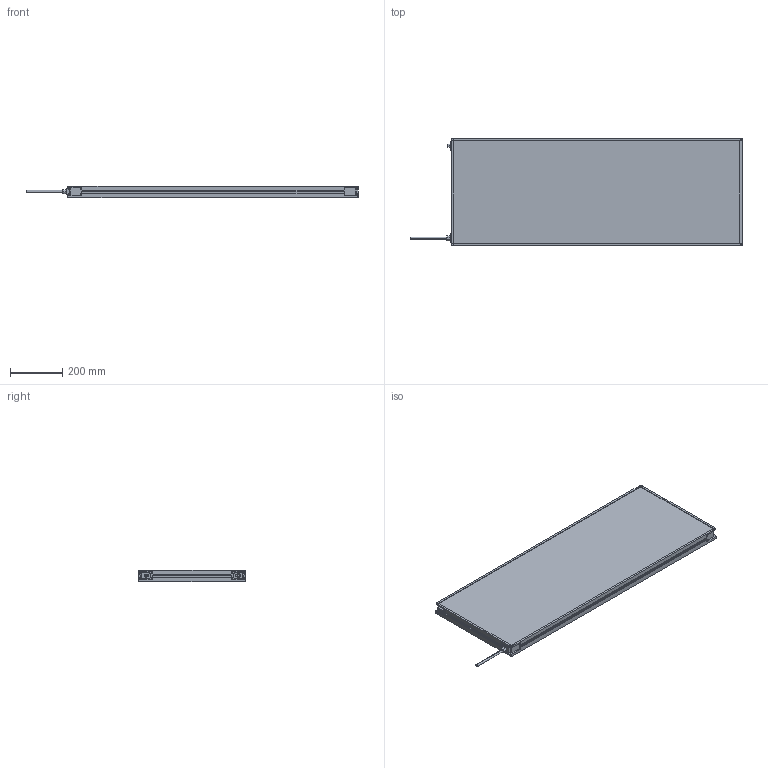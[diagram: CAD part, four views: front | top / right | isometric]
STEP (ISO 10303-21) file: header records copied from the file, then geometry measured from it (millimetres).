
FILE_DESCRIPTION (( 'STEP AP214' ), '1' );
FILE_NAME ('MBACK-xxxx-xxx-M1A2_CLIENT400x1100.STEP', '2022-04-01T11:35:52', ( '' ), ( '' ), 'SwSTEP 2.0', 'SolidWorks 2020', '' );
FILE_SCHEMA (( 'AUTOMOTIVE_DESIGN' ));
Length unit declared in the file: millimetre
Products named in the file (1): MBACK-xxxx-xxx-M1A2_CLIENT400x1100
Bounding box: 1267.4 x 408 x 45.5 mm (x, y, z)
Volume: 18805685.1 mm3; surface area: 1111419.1 mm2
Topology: 1 solids, 1 shells, 470 faces, 1210 edges, 804 vertices
Faces by surface type: plane 265, cylinder 117, bspline 80, cone 8
Entity records: 18046 total; most frequent: CARTESIAN_POINT 6837, ORIENTED_EDGE 2420, DIRECTION 2082, EDGE_CURVE 1210, VERTEX_POINT 804, LINE 800, VECTOR 800, AXIS2_PLACEMENT_3D 641
